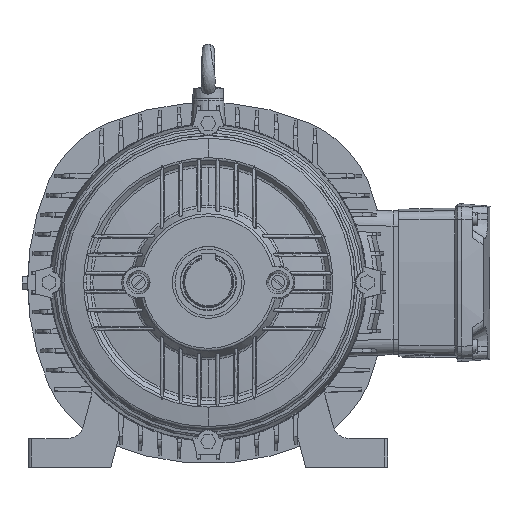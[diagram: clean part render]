
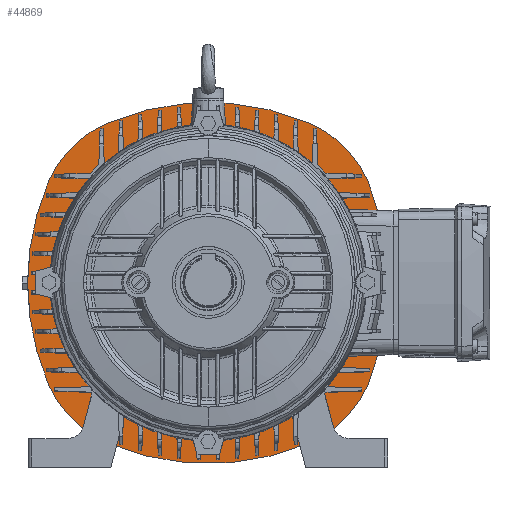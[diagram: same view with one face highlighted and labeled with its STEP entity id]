
A CAD part, top view. The second image highlights one B-rep face of the part: STEP entity #44869.
In plain terms, the highlighted planar face has unit normal (0, 0, 1).
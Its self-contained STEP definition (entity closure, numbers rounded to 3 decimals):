
#2666 = CARTESIAN_POINT ( 'NONE',  ( 151.5, 0., -152.1 ) ) ;
#4576 = EDGE_CURVE ( 'NONE', #64165, #41165, #27458, .T. ) ;
#11985 = CARTESIAN_POINT ( 'NONE',  ( -98.55, -155.756, -152.1 ) ) ;
#12424 = AXIS2_PLACEMENT_3D ( 'NONE', #12527, #12541, #12539 ) ;
#12527 = CARTESIAN_POINT ( 'NONE',  ( 0., -74., -152.1 ) ) ;
#12539 = DIRECTION ( 'NONE',  ( -1., 0., 0. ) ) ;
#12541 = DIRECTION ( 'NONE',  ( 0., 0., -1. ) ) ;
#12546 = CIRCLE ( 'NONE', #12424, 250. ) ;
#13199 = CARTESIAN_POINT ( 'NONE',  ( 155.756, 98.55, -152.1 ) ) ;
#13477 = CARTESIAN_POINT ( 'NONE',  ( 98.55, -155.756, -152.1 ) ) ;
#13510 = DIRECTION ( 'NONE',  ( -1., 0., 0. ) ) ;
#13512 = DIRECTION ( 'NONE',  ( 0., 0., -1. ) ) ;
#13514 = CARTESIAN_POINT ( 'NONE',  ( -74., 0., -152.1 ) ) ;
#13515 = AXIS2_PLACEMENT_3D ( 'NONE', #13514, #13512, #13510 ) ;
#13517 = CIRCLE ( 'NONE', #13515, 250. ) ;
#13666 = DIRECTION ( 'NONE',  ( -1., 0., 0. ) ) ;
#13668 = DIRECTION ( 'NONE',  ( 0., 0., -1. ) ) ;
#13670 = CARTESIAN_POINT ( 'NONE',  ( 55.582, -55.582, -152.1 ) ) ;
#13671 = AXIS2_PLACEMENT_3D ( 'NONE', #13670, #13668, #13666 ) ;
#13673 = CIRCLE ( 'NONE', #13671, 109. ) ;
#13870 = CARTESIAN_POINT ( 'NONE',  ( 155.756, -98.55, -152.1 ) ) ;
#14125 = DIRECTION ( 'NONE',  ( -1., 0., 0. ) ) ;
#14127 = DIRECTION ( 'NONE',  ( 0., 0., -1. ) ) ;
#14129 = CARTESIAN_POINT ( 'NONE',  ( 27.791, 9.209, -152.1 ) ) ;
#14130 = AXIS2_PLACEMENT_3D ( 'NONE', #14129, #14127, #14125 ) ;
#14132 = PLANE ( 'NONE',  #14130 ) ;
#14137 = FACE_BOUND ( 'NONE', #45820, .T. ) ;
#14139 = FACE_OUTER_BOUND ( 'NONE', #44831, .T. ) ;
#14347 = DIRECTION ( 'NONE',  ( -1., 0., 0. ) ) ;
#14349 = DIRECTION ( 'NONE',  ( 0., 0., -1. ) ) ;
#14351 = CARTESIAN_POINT ( 'NONE',  ( -55.582, -55.582, -152.1 ) ) ;
#14352 = AXIS2_PLACEMENT_3D ( 'NONE', #14351, #14349, #14347 ) ;
#14354 = CIRCLE ( 'NONE', #14352, 109. ) ;
#14626 = CIRCLE ( 'NONE', #14829, 109. ) ;
#14672 = CARTESIAN_POINT ( 'NONE',  ( -155.756, -98.55, -152.1 ) ) ;
#14689 = DIRECTION ( 'NONE',  ( -1., 0., 0. ) ) ;
#14690 = DIRECTION ( 'NONE',  ( 0., 0., -1. ) ) ;
#14692 = CARTESIAN_POINT ( 'NONE',  ( 74., 0., -152.1 ) ) ;
#14693 = AXIS2_PLACEMENT_3D ( 'NONE', #14692, #14690, #14689 ) ;
#14694 = CIRCLE ( 'NONE', #14693, 250. ) ;
#14797 = EDGE_CURVE ( 'NONE', #41165, #64165, #38027, .T. ) ;
#14822 = DIRECTION ( 'NONE',  ( -1., 0., 0. ) ) ;
#14825 = DIRECTION ( 'NONE',  ( 0., 0., -1. ) ) ;
#14826 = CARTESIAN_POINT ( 'NONE',  ( -55.582, 55.582, -152.1 ) ) ;
#14829 = AXIS2_PLACEMENT_3D ( 'NONE', #14826, #14825, #14822 ) ;
#15009 = CARTESIAN_POINT ( 'NONE',  ( -98.55, 155.756, -152.1 ) ) ;
#15178 = CARTESIAN_POINT ( 'NONE',  ( 98.55, 155.756, -152.1 ) ) ;
#15299 = DIRECTION ( 'NONE',  ( -1., 0., 0. ) ) ;
#15301 = DIRECTION ( 'NONE',  ( 0., 0., -1. ) ) ;
#15304 = AXIS2_PLACEMENT_3D ( 'NONE', #15324, #15301, #15299 ) ;
#15307 = CIRCLE ( 'NONE', #15304, 109. ) ;
#15324 = CARTESIAN_POINT ( 'NONE',  ( 55.582, 55.582, -152.1 ) ) ;
#19959 = DIRECTION ( 'NONE',  ( -1., 0., 0. ) ) ;
#19961 = DIRECTION ( 'NONE',  ( 0., 0., -1. ) ) ;
#19963 = CARTESIAN_POINT ( 'NONE',  ( 0., 74., -152.1 ) ) ;
#19964 = AXIS2_PLACEMENT_3D ( 'NONE', #19963, #19961, #19959 ) ;
#19965 = CIRCLE ( 'NONE', #19964, 250. ) ;
#24241 = DIRECTION ( 'NONE',  ( -1., 0., 0. ) ) ;
#24253 = DIRECTION ( 'NONE',  ( 0., 0., -1. ) ) ;
#24256 = CARTESIAN_POINT ( 'NONE',  ( 74., 0., -152.1 ) ) ;
#25028 = AXIS2_PLACEMENT_3D ( 'NONE', #24256, #24253, #24241 ) ;
#25031 = CIRCLE ( 'NONE', #25028, 250. ) ;
#26073 = CARTESIAN_POINT ( 'NONE',  ( -155.756, 98.55, -152.1 ) ) ;
#26196 = CARTESIAN_POINT ( 'NONE',  ( -176., 0., -152.1 ) ) ;
#27454 = CARTESIAN_POINT ( 'NONE',  ( 0., 0., -152.1 ) ) ;
#27456 = AXIS2_PLACEMENT_3D ( 'NONE', #27454, #27615, #27613 ) ;
#27458 = CIRCLE ( 'NONE', #27456, 151.5 ) ;
#27613 = DIRECTION ( 'NONE',  ( -1., 0., 0. ) ) ;
#27615 = DIRECTION ( 'NONE',  ( 0., 0., -1. ) ) ;
#36349 = CARTESIAN_POINT ( 'NONE',  ( -151.5, 0., -152.1 ) ) ;
#38023 = DIRECTION ( 'NONE',  ( -1., 0., 0. ) ) ;
#38024 = DIRECTION ( 'NONE',  ( 0., 0., -1. ) ) ;
#38025 = CARTESIAN_POINT ( 'NONE',  ( 0., 0., -152.1 ) ) ;
#38026 = AXIS2_PLACEMENT_3D ( 'NONE', #38025, #38024, #38023 ) ;
#38027 = CIRCLE ( 'NONE', #38026, 151.5 ) ;
#41165 = VERTEX_POINT ( 'NONE', #2666 ) ;
#44407 = VERTEX_POINT ( 'NONE', #11985 ) ;
#44694 = VERTEX_POINT ( 'NONE', #13199 ) ;
#44725 = VERTEX_POINT ( 'NONE', #13477 ) ;
#44745 = EDGE_CURVE ( 'NONE', #44694, #44794, #13517, .T. ) ;
#44746 = ORIENTED_EDGE ( 'NONE', *, *, #44745, .F. ) ;
#44779 = EDGE_CURVE ( 'NONE', #44794, #44725, #13673, .T. ) ;
#44794 = VERTEX_POINT ( 'NONE', #13870 ) ;
#44807 = ORIENTED_EDGE ( 'NONE', *, *, #44779, .F. ) ;
#44831 = EDGE_LOOP ( 'NONE', ( #44807, #44746, #45068, #45048, #44975, #44953, #44948, #44937, #45850 ) ) ;
#44869 = ADVANCED_FACE ( 'NONE', ( #14139, #14137 ), #14132, .F. ) ;
#44911 = EDGE_CURVE ( 'NONE', #44407, #44954, #14354, .T. ) ;
#44937 = ORIENTED_EDGE ( 'NONE', *, *, #44911, .F. ) ;
#44948 = ORIENTED_EDGE ( 'NONE', *, *, #44950, .F. ) ;
#44950 = EDGE_CURVE ( 'NONE', #44954, #46988, #14694, .T. ) ;
#44953 = ORIENTED_EDGE ( 'NONE', *, *, #46773, .F. ) ;
#44954 = VERTEX_POINT ( 'NONE', #14672 ) ;
#44973 = EDGE_CURVE ( 'NONE', #46947, #45025, #14626, .T. ) ;
#44975 = ORIENTED_EDGE ( 'NONE', *, *, #44973, .F. ) ;
#45025 = VERTEX_POINT ( 'NONE', #15009 ) ;
#45048 = ORIENTED_EDGE ( 'NONE', *, *, #45055, .F. ) ;
#45053 = VERTEX_POINT ( 'NONE', #15178 ) ;
#45055 = EDGE_CURVE ( 'NONE', #45025, #45053, #12546, .T. ) ;
#45063 = EDGE_CURVE ( 'NONE', #45053, #44694, #15307, .T. ) ;
#45068 = ORIENTED_EDGE ( 'NONE', *, *, #45063, .F. ) ;
#45672 = ORIENTED_EDGE ( 'NONE', *, *, #14797, .T. ) ;
#45714 = ORIENTED_EDGE ( 'NONE', *, *, #4576, .T. ) ;
#45820 = EDGE_LOOP ( 'NONE', ( #45714, #45672 ) ) ;
#45849 = EDGE_CURVE ( 'NONE', #44725, #44407, #19965, .T. ) ;
#45850 = ORIENTED_EDGE ( 'NONE', *, *, #45849, .F. ) ;
#46773 = EDGE_CURVE ( 'NONE', #46988, #46947, #25031, .T. ) ;
#46947 = VERTEX_POINT ( 'NONE', #26073 ) ;
#46988 = VERTEX_POINT ( 'NONE', #26196 ) ;
#64165 = VERTEX_POINT ( 'NONE', #36349 ) ;
